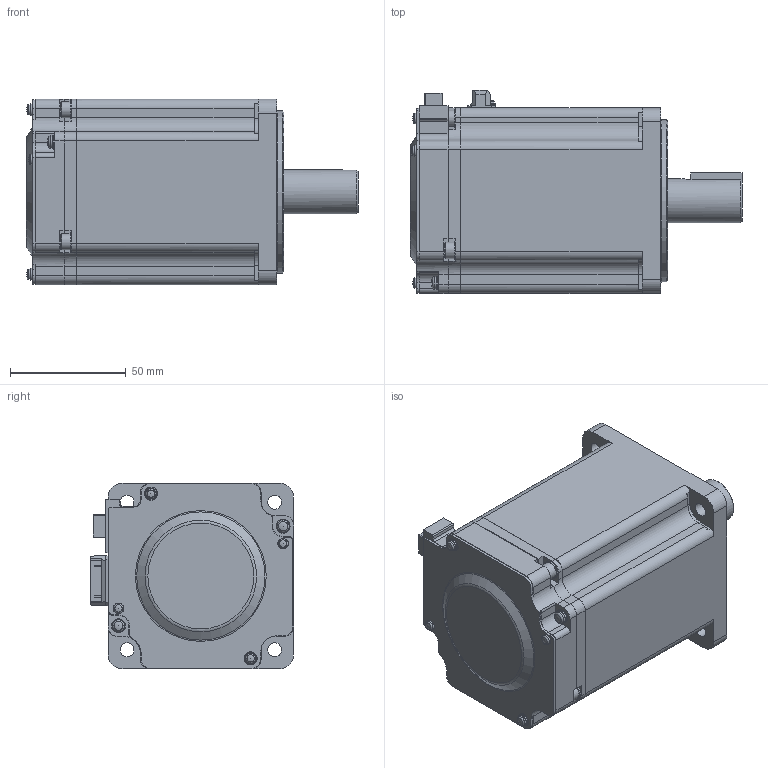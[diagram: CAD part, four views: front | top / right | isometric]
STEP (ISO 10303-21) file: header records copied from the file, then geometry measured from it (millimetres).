
FILE_DESCRIPTION( ( 'STEP AP214' ), ' ' );
FILE_NAME( 'p:/temp/worker_64/836_1212/app_63_12016081613364749044848260eae72_000000_00_00_000000/format_0/MHMF092L1U1 20.stp', '2016-08-16T11:36:49', ( '' ), ( '' ), ' ', 'PARTsolutions', ' ' );
FILE_SCHEMA( ( 'AUTOMOTIVE_DESIGN { 1 0 10303 214 1 1 1 1 }' ) );
Length unit declared in the file: millimetre
Products named in the file (2): MHMF092L1U1 20; _MHMF092L1U2con
Assembly tree (1 placements, depth 2):
  MHMF092L1U1 20
    _MHMF092L1U2con
Bounding box: 143.2 x 87.6 x 80 mm (x, y, z)
Volume: 623843.9 mm3; surface area: 51268.7 mm2
Topology: 1 solids, 1 shells, 531 faces, 1413 edges, 932 vertices
Faces by surface type: plane 350, cylinder 130, cone 31, torus 10, sphere 10
Full cylindrical faces by diameter (mm): 1.2 x3, 1.567 x8, 3.1 x1, 4.134 x1, 4.3 x1, 4.4 x1, 5.2 x2, 5.7 x2, 5.9 x2, 6 x6, 7 x4, 8 x4, 19 x1, 19.8 x1, 23 x1, 70 x1
Entity records: 20090 total; most frequent: CARTESIAN_POINT 2777, DIRECTION 2674, ORIENTED_EDGE 2580, EDGE_CURVE 1290, LINE 966, VECTOR 966, VERTEX_POINT 917, AXIS2_PLACEMENT_3D 854
